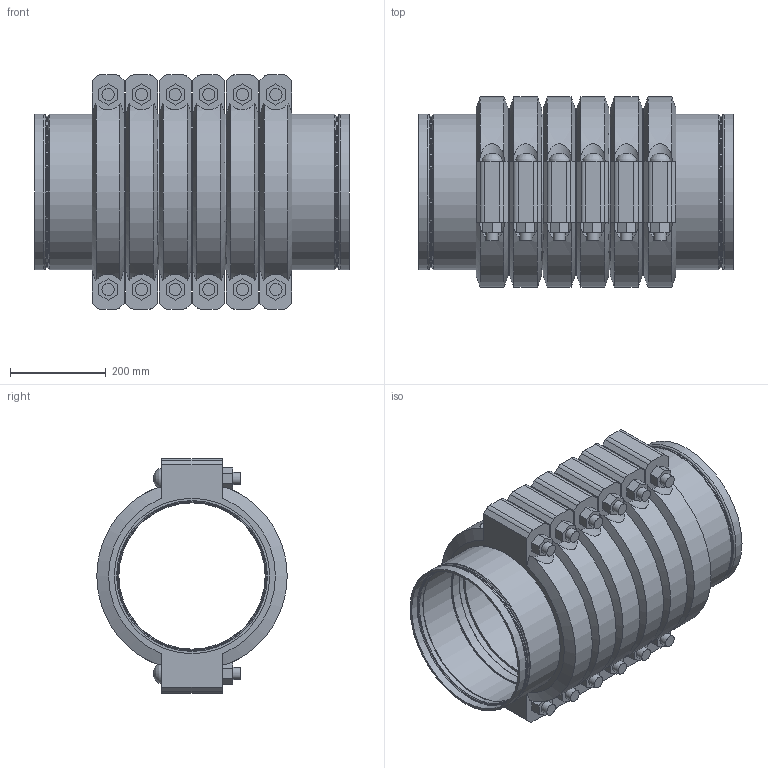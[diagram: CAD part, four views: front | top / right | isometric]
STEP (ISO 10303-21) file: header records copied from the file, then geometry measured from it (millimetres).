
FILE_DESCRIPTION(/* description */ ('VIC STRENGTHIN 100 EXPANSION JOINT 6 COUPLINGS COMPRESSED STYLE E155 (ST1)','CAx-IF Rec.Pracs.---Representation and Presentation of Product Manufacturing Information (PMI)---4.0---2014-10-13'),/* implementation_level */ '2;1');
FILE_NAME(/* name */ 'C:\Users\Vjadhav\AppData\Roaming\Autodesk\ApplicationPlugins\Victaulic.Temp\A634\Victaulic_SS-StrengThin 100_Expansion Joint_Compressed_6 Couplings_Style E155 (ST1)_12 (300).stp',/* time_stamp */ '2021-07-23T12:34:09+05:00',/* author */ ('kkamble'),/* organization */ ('Victaulic'),/* preprocessor_version */ 'ST-DEVELOPER v17.2',/* originating_system */ 'Autodesk Inventor 2019',/* authorisation */ '');
FILE_SCHEMA (('AP242_MANAGED_MODEL_BASED_3D_ENGINEERING_MIM_LF { 1 0 10303 442 1 1 4 }'));
Length unit declared in the file: inch
Products named in the file (4): E155-12.0; E494G-12.0; Nipple-12.0; 077-12.0
Assembly tree (13 placements, depth 2):
  E155-12.0
    E494G-12.0  x2
    Nipple-12.0  x5
    077-12.0  x6
Bounding box: 654.81 x 397 x 488.95 mm (x, y, z)
Volume: 24895588.8 mm3; surface area: 3365788.9 mm2
Topology: 13 solids, 25 shells, 472 faces, 1214 edges, 858 vertices
Faces by surface type: plane 248, cylinder 152, torus 32, cone 28, bspline 12
Full cylindrical faces by diameter (mm): 25.4 x24, 27.432 x12, 304.8 x5, 306.426 x2, 308.737 x2, 314.3 x6, 315.976 x2, 318.287 x12, 323.85 x27
Entity records: 3970 total; most frequent: CARTESIAN_POINT 818, DIRECTION 673, ORIENTED_EDGE 568, AXIS2_PLACEMENT_3D 290, EDGE_CURVE 284, VERTEX_POINT 205, CIRCLE 171, EDGE_LOOP 129
